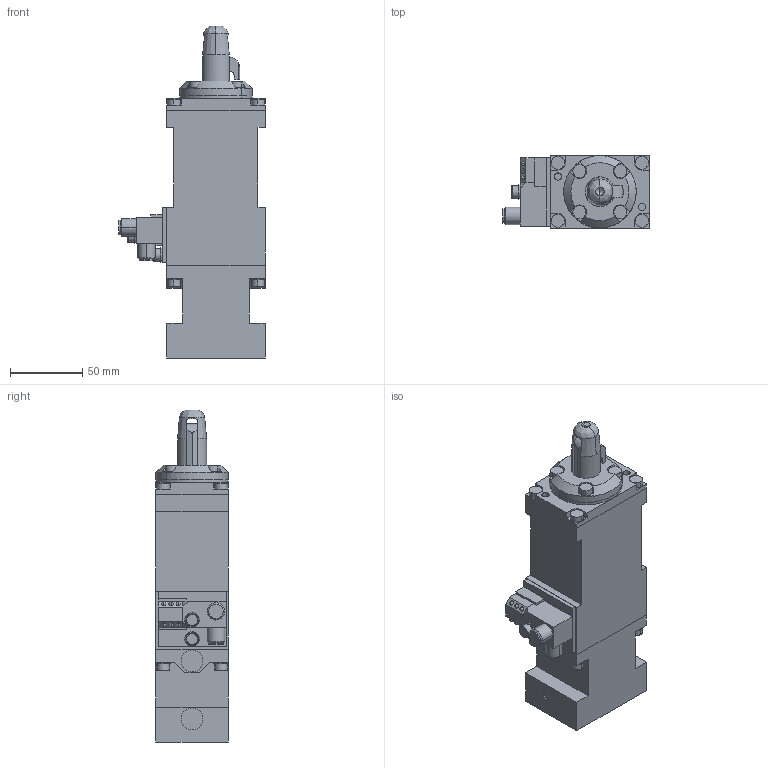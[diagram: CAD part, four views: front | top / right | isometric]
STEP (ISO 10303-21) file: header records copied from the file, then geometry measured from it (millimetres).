
FILE_DESCRIPTION(('This file is a STEP version of an ACIS data model', 'write_model','write_rep'),'2;1');
FILE_NAME('file_name','2006-09-12T11:27:17+00:00',('All at GSSL'),( 'Geometric Software Services Co. Ltd, Pawan Complex, Pune 411038, India'),'PSstep_Caselib version 4.0','', 'Geometric Software Services Co. Ltd; Shila Vihar colony, Kothrud, Pune - 411 038, India');
FILE_SCHEMA(('CONFIG_CONTROL_DESIGN'));
Length unit declared in the file: millimetre
Products named in the file (121): PRODUCT_ID1; PRODUCT_ID2; PRODUCT_ID3; PRODUCT_ID4; PRODUCT_ID5; PRODUCT_ID6; PRODUCT_ID7; PRODUCT_ID8; PRODUCT_ID9; PRODUCT_ID10; PRODUCT_ID11; PRODUCT_ID12; PRODUCT_ID13; PRODUCT_ID14; PRODUCT_ID15; PRODUCT_ID16; PRODUCT_ID17; PRODUCT_ID18; PRODUCT_ID19; PRODUCT_ID20; PRODUCT_ID21; PRODUCT_ID22; PRODUCT_ID23; PRODUCT_ID24; PRODUCT_ID25; PRODUCT_ID26; PRODUCT_ID27; PRODUCT_ID28; PRODUCT_ID29; PRODUCT_ID30; PRODUCT_ID31; PRODUCT_ID32; PRODUCT_ID33; PRODUCT_ID34; PRODUCT_ID35; PRODUCT_ID36; PRODUCT_ID37; PRODUCT_ID38; PRODUCT_ID39; PRODUCT_ID40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
Bounding box: 101 x 50.1 x 229 mm (x, y, z)
Volume: 597177.4 mm3; surface area: 94456.9 mm2
Topology: 25 solids, 37 shells, 345 faces, 1022 edges, 807 vertices
Faces by surface type: plane 186, cylinder 123, bspline 14, sphere 12, cone 10
Entity records: 24038 total; most frequent: CARTESIAN_POINT 3765, DIRECTION 1833, ORIENTED_EDGE 1696, EDGE_CURVE 1006, PERSON 968, ORGANIZATION 968, PERSON_AND_ORGANIZATION 968, VERTEX_POINT 806
